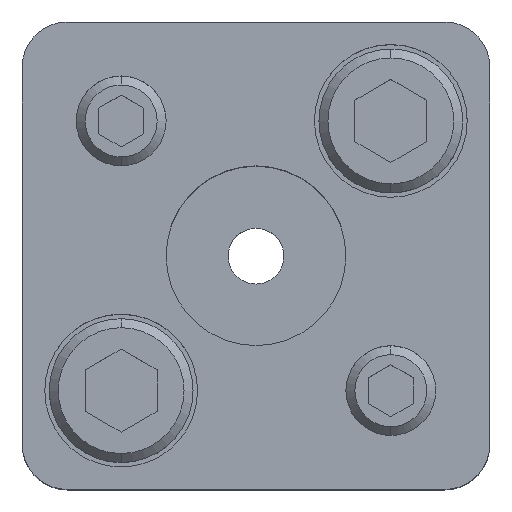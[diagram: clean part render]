
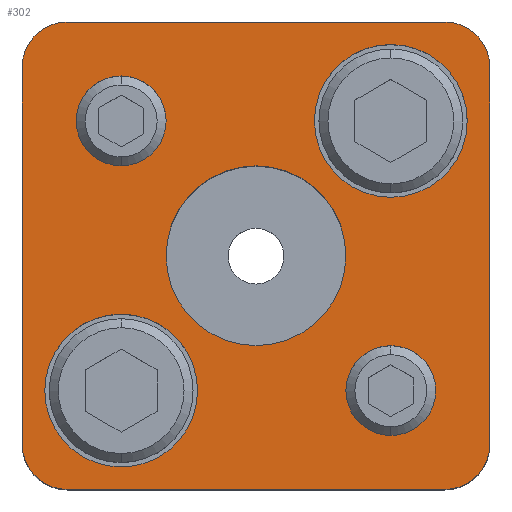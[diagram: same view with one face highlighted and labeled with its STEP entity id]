
A CAD part, top view. The second image highlights one B-rep face of the part: STEP entity #302.
In plain terms, the highlighted planar face has unit normal (0, 0, 1).
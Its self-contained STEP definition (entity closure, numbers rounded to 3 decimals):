
#165=FACE_BOUND('',#685,.T.);
#166=FACE_BOUND('',#686,.T.);
#167=FACE_BOUND('',#687,.T.);
#168=FACE_BOUND('',#688,.T.);
#169=FACE_BOUND('',#689,.T.);
#170=FACE_BOUND('',#690,.T.);
#211=PLANE('',#2792);
#302=ADVANCED_FACE('',(#165,#166,#167,#168,#169,#170),#211,.T.);
#685=EDGE_LOOP('',(#1147,#1148,#1149,#1150,#1151,#1152,#1153,#1154));
#686=EDGE_LOOP('',(#1155,#1156));
#687=EDGE_LOOP('',(#1157,#1158));
#688=EDGE_LOOP('',(#1159,#1160));
#689=EDGE_LOOP('',(#1161,#1162));
#690=EDGE_LOOP('',(#1163,#1164));
#877=CIRCLE('',#2768,8.5);
#879=CIRCLE('',#2771,8.5);
#881=CIRCLE('',#2775,8.5);
#883=CIRCLE('',#2778,8.5);
#885=CIRCLE('',#2782,5.);
#886=CIRCLE('',#2783,5.);
#887=CIRCLE('',#2784,5.);
#888=CIRCLE('',#2785,5.);
#889=CIRCLE('',#2786,5.);
#890=CIRCLE('',#2787,5.);
#891=CIRCLE('',#2788,5.);
#892=CIRCLE('',#2789,5.);
#893=CIRCLE('',#2790,10.);
#894=CIRCLE('',#2791,10.);
#1147=ORIENTED_EDGE('',*,*,#2031,.T.);
#1148=ORIENTED_EDGE('',*,*,#2032,.T.);
#1149=ORIENTED_EDGE('',*,*,#2033,.T.);
#1150=ORIENTED_EDGE('',*,*,#2034,.T.);
#1151=ORIENTED_EDGE('',*,*,#2035,.T.);
#1152=ORIENTED_EDGE('',*,*,#2036,.T.);
#1153=ORIENTED_EDGE('',*,*,#2037,.T.);
#1154=ORIENTED_EDGE('',*,*,#2038,.T.);
#1155=ORIENTED_EDGE('',*,*,#2039,.F.);
#1156=ORIENTED_EDGE('',*,*,#2040,.F.);
#1157=ORIENTED_EDGE('',*,*,#2041,.F.);
#1158=ORIENTED_EDGE('',*,*,#2042,.F.);
#1159=ORIENTED_EDGE('',*,*,#2029,.F.);
#1160=ORIENTED_EDGE('',*,*,#2025,.F.);
#1161=ORIENTED_EDGE('',*,*,#2023,.F.);
#1162=ORIENTED_EDGE('',*,*,#2019,.F.);
#1163=ORIENTED_EDGE('',*,*,#2043,.T.);
#1164=ORIENTED_EDGE('',*,*,#2044,.T.);
#1767=VERTEX_POINT('',#4005);
#1768=VERTEX_POINT('',#4006);
#1771=VERTEX_POINT('',#4018);
#1772=VERTEX_POINT('',#4019);
#1775=VERTEX_POINT('',#4031);
#1776=VERTEX_POINT('',#4032);
#1777=VERTEX_POINT('',#4034);
#1778=VERTEX_POINT('',#4036);
#1779=VERTEX_POINT('',#4038);
#1780=VERTEX_POINT('',#4040);
#1781=VERTEX_POINT('',#4042);
#1782=VERTEX_POINT('',#4044);
#1783=VERTEX_POINT('',#4047);
#1784=VERTEX_POINT('',#4048);
#1785=VERTEX_POINT('',#4051);
#1786=VERTEX_POINT('',#4052);
#1787=VERTEX_POINT('',#4055);
#1788=VERTEX_POINT('',#4056);
#2019=EDGE_CURVE('',#1767,#1768,#877,.T.);
#2023=EDGE_CURVE('',#1768,#1767,#879,.T.);
#2025=EDGE_CURVE('',#1771,#1772,#881,.T.);
#2029=EDGE_CURVE('',#1772,#1771,#883,.T.);
#2031=EDGE_CURVE('',#1775,#1776,#885,.T.);
#2032=EDGE_CURVE('',#1776,#1777,#2349,.T.);
#2033=EDGE_CURVE('',#1777,#1778,#886,.T.);
#2034=EDGE_CURVE('',#1778,#1779,#2350,.T.);
#2035=EDGE_CURVE('',#1779,#1780,#887,.T.);
#2036=EDGE_CURVE('',#1780,#1781,#2351,.T.);
#2037=EDGE_CURVE('',#1781,#1782,#888,.T.);
#2038=EDGE_CURVE('',#1782,#1775,#2352,.T.);
#2039=EDGE_CURVE('',#1783,#1784,#889,.T.);
#2040=EDGE_CURVE('',#1784,#1783,#890,.T.);
#2041=EDGE_CURVE('',#1785,#1786,#891,.T.);
#2042=EDGE_CURVE('',#1786,#1785,#892,.T.);
#2043=EDGE_CURVE('',#1787,#1788,#893,.T.);
#2044=EDGE_CURVE('',#1788,#1787,#894,.T.);
#2349=LINE('',#4033,#2545);
#2350=LINE('',#4037,#2546);
#2351=LINE('',#4041,#2547);
#2352=LINE('',#4045,#2548);
#2545=VECTOR('',#3215,1.);
#2546=VECTOR('',#3218,1.);
#2547=VECTOR('',#3221,1.);
#2548=VECTOR('',#3224,1.);
#2768=AXIS2_PLACEMENT_3D('',#4004,#3181,#3182);
#2771=AXIS2_PLACEMENT_3D('',#4013,#3189,#3190);
#2775=AXIS2_PLACEMENT_3D('',#4017,#3197,#3198);
#2778=AXIS2_PLACEMENT_3D('',#4026,#3205,#3206);
#2782=AXIS2_PLACEMENT_3D('',#4030,#3213,#3214);
#2783=AXIS2_PLACEMENT_3D('',#4035,#3216,#3217);
#2784=AXIS2_PLACEMENT_3D('',#4039,#3219,#3220);
#2785=AXIS2_PLACEMENT_3D('',#4043,#3222,#3223);
#2786=AXIS2_PLACEMENT_3D('',#4046,#3225,#3226);
#2787=AXIS2_PLACEMENT_3D('',#4049,#3227,#3228);
#2788=AXIS2_PLACEMENT_3D('',#4050,#3229,#3230);
#2789=AXIS2_PLACEMENT_3D('',#4053,#3231,#3232);
#2790=AXIS2_PLACEMENT_3D('',#4054,#3233,#3234);
#2791=AXIS2_PLACEMENT_3D('',#4057,#3235,#3236);
#2792=AXIS2_PLACEMENT_3D('',#4058,#3237,#3238);
#3181=DIRECTION('',(0.,0.,1.));
#3182=DIRECTION('',(-1.,0.,0.));
#3189=DIRECTION('',(0.,0.,1.));
#3190=DIRECTION('',(1.,0.,0.));
#3197=DIRECTION('',(0.,0.,1.));
#3198=DIRECTION('',(-1.,0.,0.));
#3205=DIRECTION('',(0.,0.,1.));
#3206=DIRECTION('',(1.,0.,0.));
#3213=DIRECTION('',(0.,0.,1.));
#3214=DIRECTION('',(-0.707,-0.707,0.));
#3215=DIRECTION('',(-1.,0.,0.));
#3216=DIRECTION('',(0.,0.,1.));
#3217=DIRECTION('',(0.707,-0.707,0.));
#3218=DIRECTION('',(0.,-1.,0.));
#3219=DIRECTION('',(0.,0.,1.));
#3220=DIRECTION('',(0.707,0.707,0.));
#3221=DIRECTION('',(1.,0.,0.));
#3222=DIRECTION('',(0.,0.,1.));
#3223=DIRECTION('',(-0.707,0.707,0.));
#3224=DIRECTION('',(0.,1.,0.));
#3225=DIRECTION('',(0.,0.,1.));
#3226=DIRECTION('',(1.,0.,0.));
#3227=DIRECTION('',(0.,0.,1.));
#3228=DIRECTION('',(-1.,0.,0.));
#3229=DIRECTION('',(0.,0.,1.));
#3230=DIRECTION('',(1.,0.,0.));
#3231=DIRECTION('',(0.,0.,1.));
#3232=DIRECTION('',(-1.,0.,0.));
#3233=DIRECTION('',(0.,0.,-1.));
#3234=DIRECTION('',(-1.,0.,0.));
#3235=DIRECTION('',(0.,0.,-1.));
#3236=DIRECTION('',(1.,0.,0.));
#3237=DIRECTION('',(0.,0.,1.));
#3238=DIRECTION('',(0.,-1.,0.));
#4004=CARTESIAN_POINT('',(15.,15.,35.));
#4005=CARTESIAN_POINT('',(15.,6.5,35.));
#4006=CARTESIAN_POINT('',(15.,23.5,35.));
#4013=CARTESIAN_POINT('',(15.,15.,35.));
#4017=CARTESIAN_POINT('',(-15.,-15.,35.));
#4018=CARTESIAN_POINT('',(-15.,-23.5,35.));
#4019=CARTESIAN_POINT('',(-15.,-6.5,35.));
#4026=CARTESIAN_POINT('',(-15.,-15.,35.));
#4030=CARTESIAN_POINT('',(21.,21.,35.));
#4031=CARTESIAN_POINT('',(26.,21.,35.));
#4032=CARTESIAN_POINT('',(21.,26.,35.));
#4033=CARTESIAN_POINT('',(21.,26.,35.));
#4034=CARTESIAN_POINT('',(-21.,26.,35.));
#4035=CARTESIAN_POINT('',(-21.,21.,35.));
#4036=CARTESIAN_POINT('',(-26.,21.,35.));
#4037=CARTESIAN_POINT('',(-26.,21.,35.));
#4038=CARTESIAN_POINT('',(-26.,-21.,35.));
#4039=CARTESIAN_POINT('',(-21.,-21.,35.));
#4040=CARTESIAN_POINT('',(-21.,-26.,35.));
#4041=CARTESIAN_POINT('',(21.,-26.,35.));
#4042=CARTESIAN_POINT('',(21.,-26.,35.));
#4043=CARTESIAN_POINT('',(21.,-21.,35.));
#4044=CARTESIAN_POINT('',(26.,-21.,35.));
#4045=CARTESIAN_POINT('',(26.,21.,35.));
#4046=CARTESIAN_POINT('',(-15.,15.,35.));
#4047=CARTESIAN_POINT('',(-15.,20.,35.));
#4048=CARTESIAN_POINT('',(-15.,10.,35.));
#4049=CARTESIAN_POINT('',(-15.,15.,35.));
#4050=CARTESIAN_POINT('',(15.,-15.,35.));
#4051=CARTESIAN_POINT('',(15.,-10.,35.));
#4052=CARTESIAN_POINT('',(15.,-20.,35.));
#4053=CARTESIAN_POINT('',(15.,-15.,35.));
#4054=CARTESIAN_POINT('',(0.,0.,35.));
#4055=CARTESIAN_POINT('',(0.,10.,35.));
#4056=CARTESIAN_POINT('',(0.,-10.,35.));
#4057=CARTESIAN_POINT('',(0.,0.,35.));
#4058=CARTESIAN_POINT('',(26.,21.,35.));
